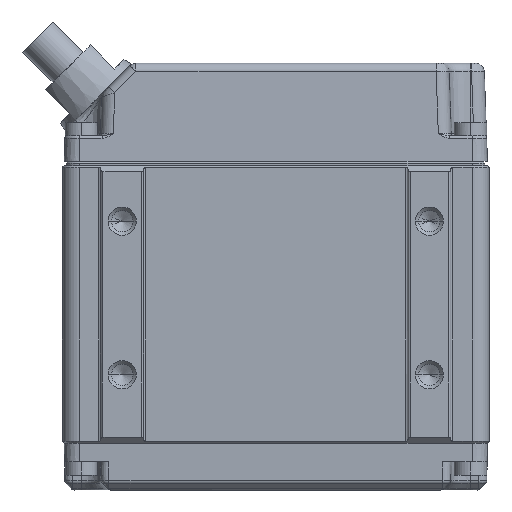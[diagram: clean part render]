
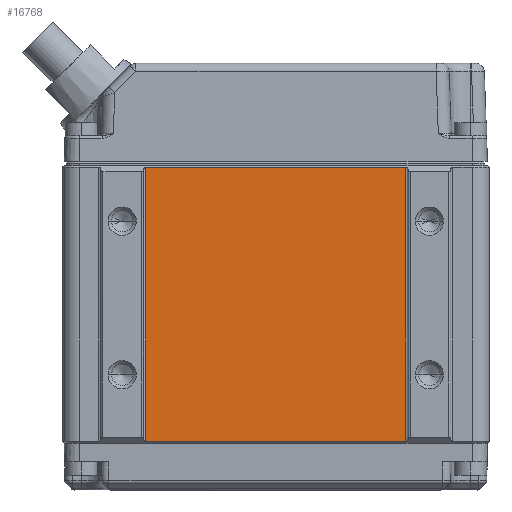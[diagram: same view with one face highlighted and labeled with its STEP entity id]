
A CAD part, front view. The second image highlights one B-rep face of the part: STEP entity #16768.
In plain terms, the highlighted planar face has unit normal (0, -1, 0).
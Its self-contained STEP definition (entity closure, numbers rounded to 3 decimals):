
#4288=CARTESIAN_POINT('',(-15.25,-14.,-32.8));
#4290=DIRECTION('',(1.,0.,0.));
#4291=VECTOR('',#4290,30.5);
#4292=CARTESIAN_POINT('',(-15.25,-14.,-32.8));
#4293=LINE('',#4292,#4291);
#4391=DIRECTION('',(-1.,0.,0.));
#4392=VECTOR('',#4391,30.5);
#4393=CARTESIAN_POINT('',(15.25,-14.,-0.7));
#4394=LINE('',#4393,#4392);
#4482=DIRECTION('',(0.,0.,1.));
#4483=VECTOR('',#4482,32.1);
#4484=CARTESIAN_POINT('',(15.25,-14.,-32.8));
#4485=LINE('',#4484,#4483);
#4486=DIRECTION('',(0.,0.,-1.));
#4487=VECTOR('',#4486,32.1);
#4488=CARTESIAN_POINT('',(-15.25,-14.,-0.7));
#4489=LINE('',#4488,#4487);
#9024=VERTEX_POINT('',#4288);
#9025=CARTESIAN_POINT('',(15.25,-14.,-32.8));
#9026=VERTEX_POINT('',#9025);
#9044=CARTESIAN_POINT('',(15.25,-14.,-0.7));
#9045=VERTEX_POINT('',#9044);
#9048=CARTESIAN_POINT('',(-15.25,-14.,-0.7));
#9049=VERTEX_POINT('',#9048);
#16756=CARTESIAN_POINT('',(25.,-14.,-33.));
#16757=DIRECTION('',(0.,-1.,0.));
#16758=DIRECTION('',(-1.,0.,0.));
#16759=AXIS2_PLACEMENT_3D('',#16756,#16757,#16758);
#16760=PLANE('',#16759);
#16761=ORIENTED_EDGE('',*,*,#16750,.F.);
#16762=ORIENTED_EDGE('',*,*,#16568,.F.);
#16764=ORIENTED_EDGE('',*,*,#16763,.F.);
#16765=ORIENTED_EDGE('',*,*,#16669,.F.);
#16766=EDGE_LOOP('',(#16761,#16762,#16764,#16765));
#16767=FACE_OUTER_BOUND('',#16766,.F.);
#16768=ADVANCED_FACE('',(#16767),#16760,.T.);
#16568=EDGE_CURVE('',#9024,#9026,#4293,.T.);
#16669=EDGE_CURVE('',#9045,#9049,#4394,.T.);
#16750=EDGE_CURVE('',#9026,#9045,#4485,.T.);
#16763=EDGE_CURVE('',#9049,#9024,#4489,.T.);
